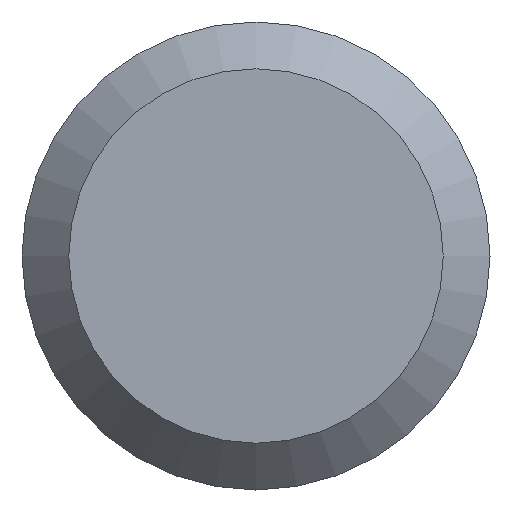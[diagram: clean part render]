
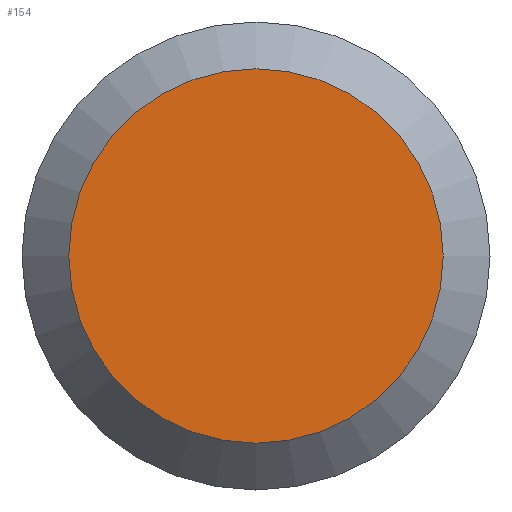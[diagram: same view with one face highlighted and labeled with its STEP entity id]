
A CAD part, left-side view. The second image highlights one B-rep face of the part: STEP entity #154.
In plain terms, the highlighted planar face has unit normal (-1, 0, 0).
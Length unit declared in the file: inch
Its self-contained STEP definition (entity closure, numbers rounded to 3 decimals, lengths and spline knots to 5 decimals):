
#1 = ORIENTED_EDGE ( 'NONE', *, *, #187, .T. ) ;
#14 = AXIS2_PLACEMENT_3D ( 'NONE', #170, #31, #168 ) ;
#24 = CARTESIAN_POINT ( 'NONE',  ( 0., 0., -0.0576 ) ) ;
#31 = DIRECTION ( 'NONE',  ( -1., 0., 0. ) ) ;
#48 = AXIS2_PLACEMENT_3D ( 'NONE', #120, #167, #216 ) ;
#66 = CIRCLE ( 'NONE', #14, 0.0576 ) ;
#73 = EDGE_LOOP ( 'NONE', ( #1 ) ) ;
#95 = PLANE ( 'NONE',  #48 ) ;
#120 = CARTESIAN_POINT ( 'NONE',  ( 0., 0.072, 0. ) ) ;
#154 = ADVANCED_FACE ( 'NONE', ( #163 ), #95, .F. ) ;
#163 = FACE_OUTER_BOUND ( 'NONE', #73, .T. ) ;
#167 = DIRECTION ( 'NONE',  ( 1., 0., 0. ) ) ;
#168 = DIRECTION ( 'NONE',  ( 0., 0., -1. ) ) ;
#170 = CARTESIAN_POINT ( 'NONE',  ( 0., 0., 0. ) ) ;
#187 = EDGE_CURVE ( 'NONE', #193, #193, #66, .T. ) ;
#193 = VERTEX_POINT ( 'NONE', #24 ) ;
#216 = DIRECTION ( 'NONE',  ( 0., 0., -1. ) ) ;
